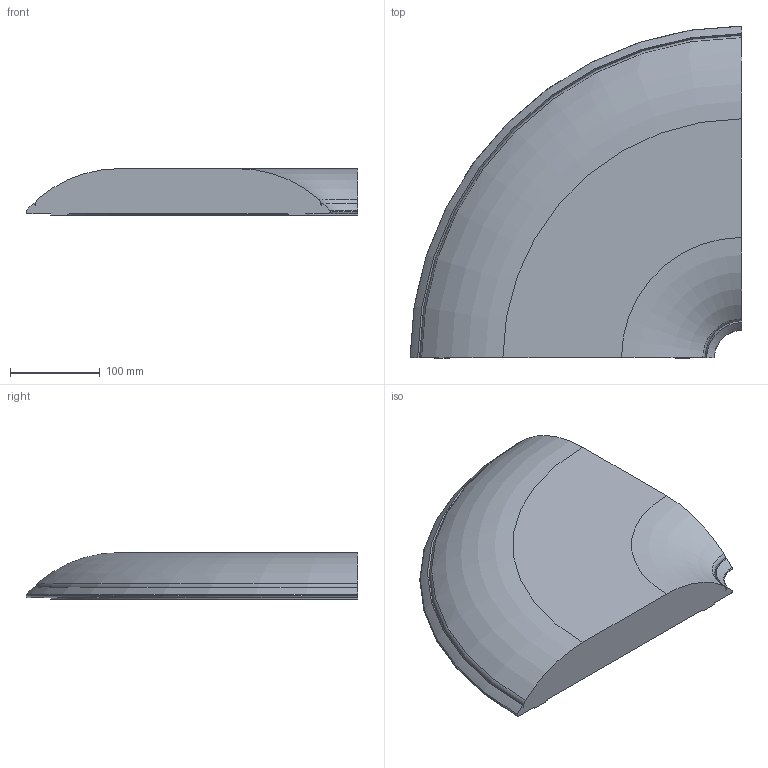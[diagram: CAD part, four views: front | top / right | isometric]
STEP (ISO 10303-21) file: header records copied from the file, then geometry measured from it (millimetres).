
FILE_DESCRIPTION(/* description */ ('Unknown'),/* implementation_level */ '2;1');
FILE_NAME(/* name */ '3D_Footsie_Corner90deg',/* time_stamp */ '2024-01-11T11:45:59+01:00',/* author */ ('Unknown'),/* organization */ ('Unknown'),/* preprocessor_version */ 'ST-DEVELOPER v18.104',/* originating_system */ 'Solid Edge',/* authorisation */ 'Unknown');
FILE_SCHEMA (('AUTOMOTIVE_DESIGN {1 0 10303 214 3 1 1}'));
Length unit declared in the file: millimetre
Products named in the file (1): 3D_Footsie_Corner90deg
Bounding box: 369.28 x 369.28 x 52 mm (x, y, z)
Volume: 4398258.5 mm3; surface area: 255860.5 mm2
Topology: 1 solids, 1 shells, 26 faces, 72 edges, 48 vertices
Faces by surface type: torus 12, plane 8, cone 4, cylinder 2
Entity records: 894 total; most frequent: DIRECTION 174, CARTESIAN_POINT 147, ORIENTED_EDGE 144, AXIS2_PLACEMENT_3D 75, EDGE_CURVE 72, VERTEX_POINT 48, CIRCLE 48, EDGE_LOOP 26
